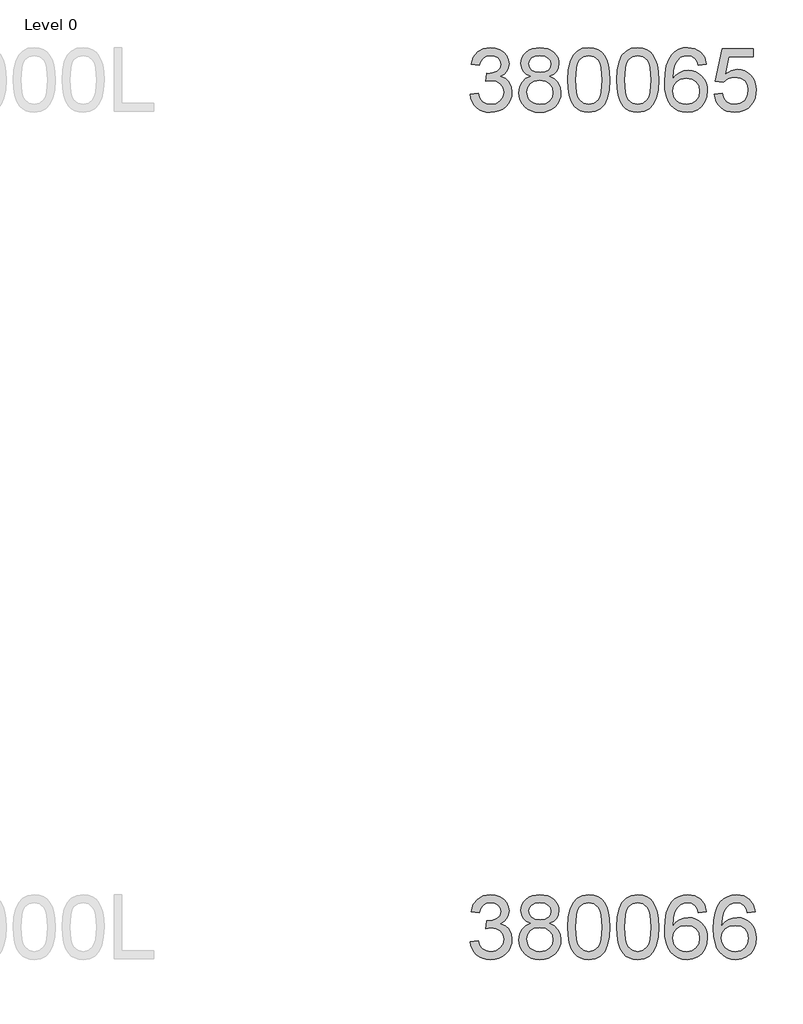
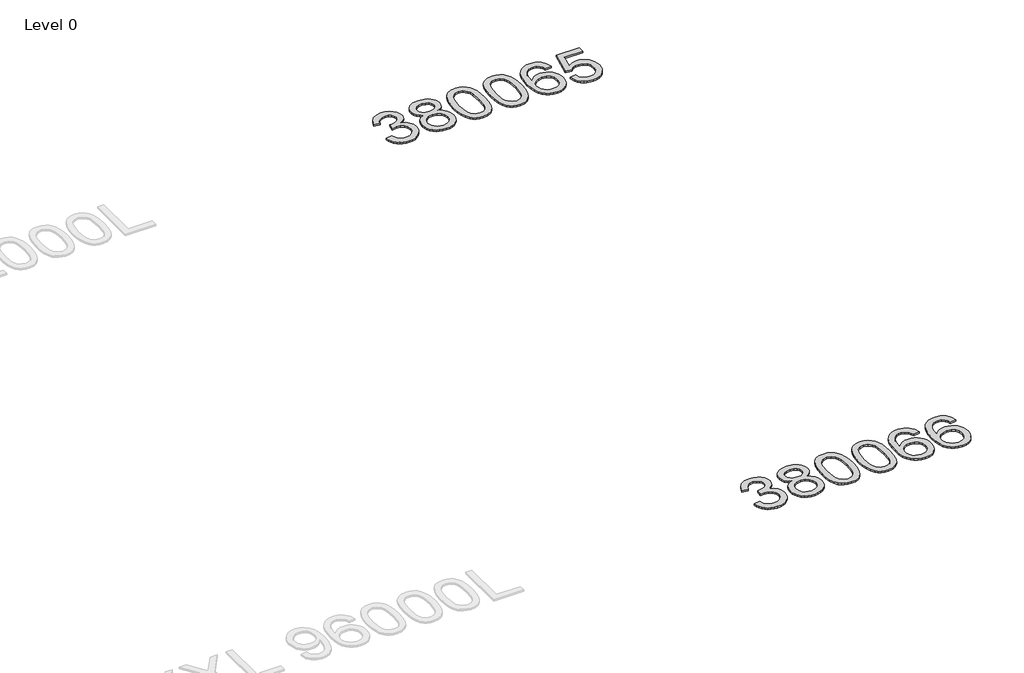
# One storey, part 28 of 37: 2 proxies.
"""IFC4 building model written with IfcOpenShell, lengths in millimetres."""

from ifc_helpers import new_model, si_unit, origin, origin_with_axes, place, context, project, spatial, polyline, outline, extrude, element, save

model = new_model("IFC4")

# Units and contexts
model_context = context("Model", 3, world=origin())
ifc_project = project(units=[si_unit("LENGTHUNIT", "METRE", prefix="MILLI")], contexts=[model_context])

# Site, building, storey
site = spatial("IfcSite", under=ifc_project)
building = spatial("IfcBuilding", under=site)
storey = spatial("IfcBuildingStorey", under=building, Name="Level 0", Elevation=0.0)

# Proxies
placement = place(None, origin())
element("IfcBuildingElementProxy", 1, Name="300mm Arial", ObjectType="300mm Arial", at=placement, inside=storey, context=model_context, shape_type="SweptSolid", body=[
    extrude(outline(polyline([(27688.7153576, -17620.925676), (27726.3864739, -17616.2167865), (27734.8201687, -17639.8899929), (27747.1718066, -17655.8744656), (27764.0483932, -17664.979545), (27786.0569335, -17668.0145714), (27811.8822496, -17663.8391108), (27831.8214537, -17651.3127288), (27844.5685649, -17632.6243235), (27848.8176019, -17609.9627926), (27844.6053531, -17588.4508929), (27831.9686065, -17571.0040893), (27812.8387428, -17559.4433976), (27789.1471423, -17555.5898337), (27762.733215, -17559.710112), (27766.9270698, -17522.0389957), (27772.9603345, -17522.4804541), (27795.5298949, -17519.7765215), (27815.7082223, -17511.6647235), (27829.9452556, -17497.942725), (27834.6909333, -17478.4081911), (27831.2512366, -17462.1386099), (27820.9321467, -17448.9408433), (27805.1867973, -17440.1944488), (27785.4683223, -17437.278984), (27765.7130592, -17440.22204), (27749.5630396, -17449.0512079), (27737.7724217, -17463.7664877), (27731.0953635, -17484.3678794), (27693.4242472, -17479.6589899), (27704.5158893, -17445.8322404), (27724.2527583, -17420.5771415), (27751.2552968, -17404.8501862), (27784.1439472, -17399.6078677), (27807.8263506, -17402.1922387), (27829.5773736, -17409.9453518), (27847.916291, -17422.1774281), (27861.362378, -17438.198689), (27869.6121317, -17456.6571681), (27872.3620496, -17476.2008991), (27869.7500874, -17494.4110579), (27861.9142009, -17510.9289595), (27848.9647547, -17525.0004458), (27831.0121133, -17535.8713587), (27854.5933492, -17545.3995024), (27872.067744, -17561.6230984), (27882.8834747, -17583.6592299), (27886.4887182, -17610.6249802), (27884.6860964, -17629.7364498), (27879.2782311, -17647.3396033), (27870.2651222, -17663.4344406), (27857.6467698, -17678.0209617), (27842.2739009, -17690.1242793), (27824.9972427, -17698.7695062), (27805.8167952, -17703.9566423), (27784.7325584, -17705.6856877), (27765.676271, -17704.2095612), (27748.3122408, -17699.7811817), (27732.6404678, -17692.4005492), (27718.660952, -17682.0676636), (27706.9393119, -17669.3895304), (27698.0411662, -17654.9731547), (27691.9665147, -17638.8185366), (27688.7153576, -17620.925676)])), origin_with_axes(), (0.0, 0.0, 1.0), 10.0),
    extrude(outline(polyline([(27974.3389387, -17534.988442), (27954.1698083, -17525.0556281), (27940.0155485, -17511.5911471), (27931.6554302, -17494.8709104), (27928.8687241, -17475.1708295), (27930.3862373, -17459.8071577), (27934.938777, -17445.7218758), (27942.5263431, -17432.9149839), (27953.1489357, -17421.3864818), (27966.2961185, -17411.8583382), (27981.4574553, -17405.0525213), (28017.8225905, -17399.6078677), (28054.4084549, -17405.18128), (28069.7353385, -17412.1480452), (28083.0848564, -17421.9015166), (28093.9005871, -17433.6553464), (28101.626109, -17446.6231867), (28106.2614221, -17460.8050376), (28107.8065265, -17476.2008991), (28105.0566086, -17495.2663835), (28096.8068549, -17511.7015117), (28082.9652948, -17525.0832192), (28063.4399579, -17534.988442), (28086.6257206, -17546.9354097), (28103.5023072, -17564.5293662), (28113.793806, -17586.9241826), (28117.2243056, -17613.2737305), (28115.5228514, -17632.0633034), (28110.4184887, -17649.2893779), (28101.9112175, -17664.9519538), (28090.001038, -17679.0510313), (28075.3133493, -17690.7036935), (28058.473551, -17699.0270236), (28039.481643, -17704.0210217), (28018.3376253, -17705.6856877), (27997.1936076, -17704.0141239), (27978.2016996, -17698.9994325), (27961.3619013, -17690.6416134), (27946.6742126, -17678.9406667), (27934.764033, -17664.7427209), (27926.2567619, -17648.8939047), (27921.1523992, -17631.3942181), (27919.450945, -17612.2436609), (27923.0194003, -17584.8732405), (27933.7247664, -17562.3588624), (27951.0152202, -17545.4730788), (27974.3389387, -17534.988442)]), holes=[polyline([(27966.5398404, -17476.2744755), (27969.8783695, -17492.7188007), (27979.8939568, -17505.8521879), (27996.2922967, -17514.4606266), (28018.7790837, -17517.3301062), (28040.7416388, -17514.4790207), (28056.8916584, -17505.9257643), (28066.8244723, -17493.2338355), (28070.1354102, -17477.9667327), (28066.7141077, -17462.1202158), (28056.4502, -17449.0144197), (28040.0794512, -17440.2128429), (28018.3376253, -17437.278984), (27996.4578436, -17440.1484636), (27980.114686, -17448.7569023), (27969.9335518, -17461.3752547), (27966.5398404, -17476.2744755)]), polyline([(27957.1220613, -17610.9192858), (27963.4128434, -17639.2829876), (27972.1224496, -17651.4506846), (27985.6697041, -17660.5097787), (28001.8933001, -17666.1383732), (28018.6319309, -17668.0145714), (28044.273306, -17664.069037), (28063.5135343, -17652.2324338), (28075.5432755, -17634.3073836), (28079.5531893, -17612.0965081), (28075.4145168, -17589.5085536), (28062.9984995, -17571.1880303), (28043.3168128, -17559.0479244), (28017.3811321, -17555.0012225), (27992.098442, -17558.9927421), (27973.0513517, -17570.9673011), (27961.1043839, -17588.9383365), (27957.1220613, -17610.9192858)])]), origin_with_axes(), (0.0, 0.0, 1.0), 10.0),
    extrude(outline(polyline([(28150.1865324, -17552.7203541), (28152.9548444, -17504.4818275), (28161.2597804, -17466.0105679), (28175.018567, -17436.717964), (28194.1484308, -17416.0154047), (28218.7873274, -17403.709752), (28249.0732127, -17399.6078677), (28272.2865666, -17402.0358889), (28293.0718993, -17409.3199524), (28310.4543236, -17421.1749497), (28323.4589521, -17437.3157722), (28333.2814014, -17457.6044643), (28341.1172879, -17481.9030701), (28346.2492417, -17512.7591724), (28347.959893, -17552.7203541), (28345.2191721, -17600.6829692), (28336.9970095, -17639.0622584), (28323.3209963, -17668.3824534), (28304.2187237, -17689.1677861), (28279.5246448, -17701.5562123), (28249.0732127, -17705.6856877), (28228.3246681, -17703.892263), (28209.9305684, -17698.5119888), (28193.8909134, -17689.5448652), (28180.2057032, -17676.9908921), (28167.0723159, -17654.2971715), (28157.6913251, -17626.0208417), (28152.0627305, -17592.1619025), (28150.1865324, -17552.7203541)]), holes=[polyline([(28187.8576487, -17552.6467777), (28192.2722326, -17611.9033701), (28197.7904625, -17632.1713688), (28205.5159844, -17646.1991691), (28225.2344594, -17662.5607208), (28249.0732127, -17668.0145714), (28272.911966, -17662.5423267), (28292.6304409, -17646.1255927), (28300.3559628, -17632.0747997), (28305.8741927, -17611.8113996), (28310.2887767, -17552.6467777), (28306.0213455, -17494.7237576), (28300.6870566, -17474.5224375), (28293.2190521, -17460.1612441), (28273.5373653, -17442.9995491), (28248.6317543, -17437.278984), (28225.0505184, -17442.3189674), (28206.1045956, -17457.4389174), (28198.1215563, -17473.0739022), (28192.4193854, -17494.1535405), (28187.8576487, -17552.6467777)])]), origin_with_axes(), (0.0, 0.0, 1.0), 10.0),
    extrude(outline(polyline([(28380.9221197, -17552.7203541), (28383.6904318, -17504.4818275), (28391.9953678, -17466.0105679), (28405.7541544, -17436.717964), (28424.8840182, -17416.0154047), (28449.5229148, -17403.709752), (28479.8088, -17399.6078677), (28503.0221539, -17402.0358889), (28523.8074867, -17409.3199524), (28541.1899109, -17421.1749497), (28554.1945395, -17437.3157722), (28564.0169887, -17457.6044643), (28571.8528752, -17481.9030701), (28576.9848291, -17512.7591724), (28578.6954803, -17552.7203541), (28575.9547595, -17600.6829692), (28567.7325969, -17639.0622584), (28554.0565837, -17668.3824534), (28534.9543111, -17689.1677861), (28510.2602322, -17701.5562123), (28479.8088, -17705.6856877), (28459.0602555, -17703.892263), (28440.6661558, -17698.5119888), (28424.6265008, -17689.5448652), (28410.9412905, -17676.9908921), (28397.8079033, -17654.2971715), (28388.4269124, -17626.0208417), (28382.7983179, -17592.1619025), (28380.9221197, -17552.7203541)]), holes=[polyline([(28418.593236, -17552.6467777), (28423.00782, -17611.9033701), (28428.5260499, -17632.1713688), (28436.2515718, -17646.1991691), (28455.9700468, -17662.5607208), (28479.8088, -17668.0145714), (28503.6475533, -17662.5423267), (28523.3660283, -17646.1255927), (28531.0915502, -17632.0747997), (28536.6097801, -17611.8113996), (28541.024364, -17552.6467777), (28536.7569329, -17494.7237576), (28531.422644, -17474.5224375), (28523.9546395, -17460.1612441), (28504.2729527, -17442.9995491), (28479.3673416, -17437.278984), (28455.7861058, -17442.3189674), (28436.840183, -17457.4389174), (28428.8571437, -17473.0739022), (28423.1549728, -17494.1535405), (28418.593236, -17552.6467777)])]), origin_with_axes(), (0.0, 0.0, 1.0), 10.0),
    extrude(outline(polyline([(28804.7221782, -17479.6589899), (28767.0510619, -17484.3678794), (28760.981009, -17465.6978682), (28752.7772405, -17452.950757), (28735.6891218, -17441.1969273), (28715.0325478, -17437.278984), (28697.5213648, -17439.5598524), (28681.0402514, -17446.4024575), (28666.8859916, -17460.8142347), (28655.3252999, -17480.6522713), (28647.5170046, -17508.7124704), (28644.6199339, -17547.7907354), (28659.7306868, -17530.1599908), (28677.839678, -17517.7347764), (28697.935232, -17510.3679394), (28719.0056733, -17507.9123271), (28737.1054675, -17509.5907887), (28753.80731, -17514.6261735), (28769.111201, -17523.0184815), (28783.0171405, -17534.7677128), (28794.5732336, -17549.1748914), (28802.8275859, -17565.5410417), (28807.7801973, -17583.8661635), (28809.4310677, -17604.150257), (28806.3224649, -17631.1252043), (28796.9966563, -17656.131983), (28782.2261942, -17677.34038), (28762.7836307, -17692.9201825), (28739.5518827, -17702.4943114), (28713.413867, -17705.6856877), (28690.9569704, -17703.5703662), (28670.6751762, -17697.2244018), (28652.5684842, -17686.6477945), (28636.6368946, -17671.8405442), (28623.6483609, -17652.1772515), (28614.3708368, -17627.0325171), (28608.8043224, -17596.406341), (28606.9488176, -17560.2987232), (28609.0089567, -17519.8179082), (28615.1893743, -17485.2691903), (28625.4900701, -17456.6525696), (28639.9110443, -17433.9680461), (28655.5414306, -17418.9354681), (28673.6642174, -17408.1979123), (28694.2794047, -17401.7553789), (28717.3869925, -17399.6078677), (28750.4411898, -17404.9237626), (28776.9102993, -17420.8714471), (28795.4515519, -17446.2001224), (28804.7221782, -17479.6589899)]), holes=[polyline([(28644.6199339, -17603.5616459), (28646.7996347, -17620.2542914), (28653.3387372, -17636.1927788), (28663.4922802, -17649.8963831), (28676.5153029, -17659.8843793), (28692.2330611, -17665.9820234), (28710.470811, -17668.0145714), (28735.3304368, -17663.8023226), (28754.8741678, -17651.165576), (28767.5385055, -17631.2999483), (28771.7599514, -17605.4010558), (28767.5936878, -17580.54143), (28755.094897, -17561.5863102), (28735.2200722, -17549.5841601), (28708.9257066, -17545.5834434), (28684.102869, -17549.5841601), (28663.3451274, -17561.5863102), (28649.3012323, -17580.0815775), (28644.6199339, -17603.5616459)])]), origin_with_axes(), (0.0, 0.0, 1.0), 10.0),
    extrude(outline(polyline([(28842.3932945, -17620.925676), (28880.0644108, -17616.2167865), (28886.9805923, -17638.8323321), (28899.0471217, -17655.028337), (28916.2088168, -17664.7680128), (28938.4104952, -17668.0145714), (28965.4130337, -17663.4988199), (28985.6465434, -17649.9515654), (28998.2832899, -17628.9363065), (29002.4955388, -17602.0165415), (28998.5500044, -17576.669472), (28986.7134012, -17557.2820909), (28966.8937587, -17544.9764381), (28938.9991064, -17540.8745539), (28920.7245683, -17542.5116288), (28905.9265151, -17547.4228534), (28884.7733003, -17564.4190016), (28847.102184, -17559.710112), (28880.0644108, -17404.3167573), (29026.0399865, -17404.3167573), (29026.0399865, -17441.9878736), (28910.52504, -17441.9878736), (28894.4118086, -17524.9820517), (28921.3223766, -17508.6480911), (28949.5205315, -17503.2034376), (28967.8663467, -17504.8910962), (28984.7176414, -17509.9540722), (29000.0744154, -17518.3923654), (29013.9366688, -17530.205976), (29025.4122878, -17544.6729355), (29033.6091585, -17561.0712754), (29038.527281, -17579.4009958), (29040.1666551, -17599.6620967), (29034.2621491, -17637.333213), (29026.8815165, -17654.1270261), (29016.548631, -17669.5596758), (29000.8952521, -17685.364806), (28982.629911, -17696.6541847), (28961.7526078, -17703.427812), (28938.2633424, -17705.6856877), (28901.2636108, -17699.8823492), (28885.58494, -17692.6281762), (28871.7870659, -17682.4723338), (28860.3068484, -17669.92066), (28851.5811473, -17655.4789924), (28842.3932945, -17620.925676)])), origin_with_axes(), (0.0, 0.0, 1.0), 10.0),
])
element("IfcBuildingElementProxy", 2, Name="300mm Arial", ObjectType="300mm Arial", at=placement, inside=storey, context=model_context, shape_type="SweptSolid", body=[
    extrude(outline(polyline([(27688.7153576, -21620.925676), (27726.3864739, -21616.2167865), (27734.8201687, -21639.8899929), (27747.1718066, -21655.8744656), (27764.0483932, -21664.979545), (27786.0569335, -21668.0145714), (27811.8822496, -21663.8391108), (27831.8214537, -21651.3127288), (27844.5685649, -21632.6243235), (27848.8176019, -21609.9627926), (27844.6053531, -21588.4508929), (27831.9686065, -21571.0040893), (27812.8387428, -21559.4433976), (27789.1471423, -21555.5898337), (27762.733215, -21559.710112), (27766.9270698, -21522.0389957), (27772.9603345, -21522.4804541), (27795.5298949, -21519.7765215), (27815.7082223, -21511.6647235), (27829.9452556, -21497.942725), (27834.6909333, -21478.4081911), (27831.2512366, -21462.1386099), (27820.9321467, -21448.9408433), (27805.1867973, -21440.1944488), (27785.4683223, -21437.278984), (27765.7130592, -21440.22204), (27749.5630396, -21449.0512079), (27737.7724217, -21463.7664877), (27731.0953635, -21484.3678794), (27693.4242472, -21479.6589899), (27704.5158893, -21445.8322404), (27724.2527583, -21420.5771415), (27751.2552968, -21404.8501862), (27784.1439472, -21399.6078677), (27807.8263506, -21402.1922387), (27829.5773736, -21409.9453518), (27847.916291, -21422.1774281), (27861.362378, -21438.198689), (27869.6121317, -21456.6571681), (27872.3620496, -21476.2008991), (27869.7500874, -21494.4110579), (27861.9142009, -21510.9289595), (27848.9647547, -21525.0004458), (27831.0121133, -21535.8713587), (27854.5933492, -21545.3995024), (27872.067744, -21561.6230984), (27882.8834747, -21583.6592299), (27886.4887182, -21610.6249802), (27884.6860964, -21629.7364498), (27879.2782311, -21647.3396033), (27870.2651222, -21663.4344406), (27857.6467698, -21678.0209617), (27842.2739009, -21690.1242793), (27824.9972427, -21698.7695062), (27805.8167952, -21703.9566423), (27784.7325584, -21705.6856877), (27765.676271, -21704.2095612), (27748.3122408, -21699.7811817), (27732.6404678, -21692.4005492), (27718.660952, -21682.0676636), (27706.9393119, -21669.3895304), (27698.0411662, -21654.9731547), (27691.9665147, -21638.8185366), (27688.7153576, -21620.925676)])), origin_with_axes(), (0.0, 0.0, 1.0), 10.0),
    extrude(outline(polyline([(27974.3389387, -21534.988442), (27954.1698083, -21525.0556281), (27940.0155485, -21511.5911471), (27931.6554302, -21494.8709104), (27928.8687241, -21475.1708295), (27930.3862373, -21459.8071577), (27934.938777, -21445.7218758), (27942.5263431, -21432.9149839), (27953.1489357, -21421.3864818), (27966.2961185, -21411.8583382), (27981.4574553, -21405.0525213), (28017.8225905, -21399.6078677), (28054.4084549, -21405.18128), (28069.7353385, -21412.1480452), (28083.0848564, -21421.9015166), (28093.9005871, -21433.6553464), (28101.626109, -21446.6231867), (28106.2614221, -21460.8050376), (28107.8065265, -21476.2008991), (28105.0566086, -21495.2663835), (28096.8068549, -21511.7015117), (28082.9652948, -21525.0832192), (28063.4399579, -21534.988442), (28086.6257206, -21546.9354097), (28103.5023072, -21564.5293662), (28113.793806, -21586.9241826), (28117.2243056, -21613.2737305), (28115.5228514, -21632.0633034), (28110.4184887, -21649.2893779), (28101.9112175, -21664.9519538), (28090.001038, -21679.0510313), (28075.3133493, -21690.7036935), (28058.473551, -21699.0270236), (28039.481643, -21704.0210217), (28018.3376253, -21705.6856877), (27997.1936076, -21704.0141239), (27978.2016996, -21698.9994325), (27961.3619013, -21690.6416134), (27946.6742126, -21678.9406667), (27934.764033, -21664.7427209), (27926.2567619, -21648.8939047), (27921.1523992, -21631.3942181), (27919.450945, -21612.2436609), (27923.0194003, -21584.8732405), (27933.7247664, -21562.3588624), (27951.0152202, -21545.4730788), (27974.3389387, -21534.988442)]), holes=[polyline([(27966.5398404, -21476.2744755), (27969.8783695, -21492.7188007), (27979.8939568, -21505.8521879), (27996.2922967, -21514.4606266), (28018.7790837, -21517.3301062), (28040.7416388, -21514.4790207), (28056.8916584, -21505.9257643), (28066.8244723, -21493.2338355), (28070.1354102, -21477.9667327), (28066.7141077, -21462.1202158), (28056.4502, -21449.0144197), (28040.0794512, -21440.2128429), (28018.3376253, -21437.278984), (27996.4578436, -21440.1484636), (27980.114686, -21448.7569023), (27969.9335518, -21461.3752547), (27966.5398404, -21476.2744755)]), polyline([(27957.1220613, -21610.9192858), (27963.4128434, -21639.2829876), (27972.1224496, -21651.4506846), (27985.6697041, -21660.5097787), (28001.8933001, -21666.1383732), (28018.6319309, -21668.0145714), (28044.273306, -21664.069037), (28063.5135343, -21652.2324338), (28075.5432755, -21634.3073836), (28079.5531893, -21612.0965081), (28075.4145168, -21589.5085536), (28062.9984995, -21571.1880303), (28043.3168128, -21559.0479244), (28017.3811321, -21555.0012225), (27992.098442, -21558.9927421), (27973.0513517, -21570.9673011), (27961.1043839, -21588.9383365), (27957.1220613, -21610.9192858)])]), origin_with_axes(), (0.0, 0.0, 1.0), 10.0),
    extrude(outline(polyline([(28150.1865324, -21552.7203541), (28152.9548444, -21504.4818275), (28161.2597804, -21466.0105679), (28175.018567, -21436.717964), (28194.1484308, -21416.0154047), (28218.7873274, -21403.709752), (28249.0732127, -21399.6078677), (28272.2865666, -21402.0358889), (28293.0718993, -21409.3199524), (28310.4543236, -21421.1749497), (28323.4589521, -21437.3157722), (28333.2814014, -21457.6044643), (28341.1172879, -21481.9030701), (28346.2492417, -21512.7591724), (28347.959893, -21552.7203541), (28345.2191721, -21600.6829692), (28336.9970095, -21639.0622584), (28323.3209963, -21668.3824534), (28304.2187237, -21689.1677861), (28279.5246448, -21701.5562123), (28249.0732127, -21705.6856877), (28228.3246681, -21703.892263), (28209.9305684, -21698.5119888), (28193.8909134, -21689.5448652), (28180.2057032, -21676.9908921), (28167.0723159, -21654.2971715), (28157.6913251, -21626.0208417), (28152.0627305, -21592.1619025), (28150.1865324, -21552.7203541)]), holes=[polyline([(28187.8576487, -21552.6467777), (28192.2722326, -21611.9033701), (28197.7904625, -21632.1713688), (28205.5159844, -21646.1991691), (28225.2344594, -21662.5607208), (28249.0732127, -21668.0145714), (28272.911966, -21662.5423267), (28292.6304409, -21646.1255927), (28300.3559628, -21632.0747997), (28305.8741927, -21611.8113996), (28310.2887767, -21552.6467777), (28306.0213455, -21494.7237576), (28300.6870566, -21474.5224375), (28293.2190521, -21460.1612441), (28273.5373653, -21442.9995491), (28248.6317543, -21437.278984), (28225.0505184, -21442.3189674), (28206.1045956, -21457.4389174), (28198.1215563, -21473.0739022), (28192.4193854, -21494.1535405), (28187.8576487, -21552.6467777)])]), origin_with_axes(), (0.0, 0.0, 1.0), 10.0),
    extrude(outline(polyline([(28380.9221197, -21552.7203541), (28383.6904318, -21504.4818275), (28391.9953678, -21466.0105679), (28405.7541544, -21436.717964), (28424.8840182, -21416.0154047), (28449.5229148, -21403.709752), (28479.8088, -21399.6078677), (28503.0221539, -21402.0358889), (28523.8074867, -21409.3199524), (28541.1899109, -21421.1749497), (28554.1945395, -21437.3157722), (28564.0169887, -21457.6044643), (28571.8528752, -21481.9030701), (28576.9848291, -21512.7591724), (28578.6954803, -21552.7203541), (28575.9547595, -21600.6829692), (28567.7325969, -21639.0622584), (28554.0565837, -21668.3824534), (28534.9543111, -21689.1677861), (28510.2602322, -21701.5562123), (28479.8088, -21705.6856877), (28459.0602555, -21703.892263), (28440.6661558, -21698.5119888), (28424.6265008, -21689.5448652), (28410.9412905, -21676.9908921), (28397.8079033, -21654.2971715), (28388.4269124, -21626.0208417), (28382.7983179, -21592.1619025), (28380.9221197, -21552.7203541)]), holes=[polyline([(28418.593236, -21552.6467777), (28423.00782, -21611.9033701), (28428.5260499, -21632.1713688), (28436.2515718, -21646.1991691), (28455.9700468, -21662.5607208), (28479.8088, -21668.0145714), (28503.6475533, -21662.5423267), (28523.3660283, -21646.1255927), (28531.0915502, -21632.0747997), (28536.6097801, -21611.8113996), (28541.024364, -21552.6467777), (28536.7569329, -21494.7237576), (28531.422644, -21474.5224375), (28523.9546395, -21460.1612441), (28504.2729527, -21442.9995491), (28479.3673416, -21437.278984), (28455.7861058, -21442.3189674), (28436.840183, -21457.4389174), (28428.8571437, -21473.0739022), (28423.1549728, -21494.1535405), (28418.593236, -21552.6467777)])]), origin_with_axes(), (0.0, 0.0, 1.0), 10.0),
    extrude(outline(polyline([(28804.7221782, -21479.6589899), (28767.0510619, -21484.3678794), (28760.981009, -21465.6978682), (28752.7772405, -21452.950757), (28735.6891218, -21441.1969273), (28715.0325478, -21437.278984), (28697.5213648, -21439.5598524), (28681.0402514, -21446.4024575), (28666.8859916, -21460.8142347), (28655.3252999, -21480.6522713), (28647.5170046, -21508.7124704), (28644.6199339, -21547.7907354), (28659.7306868, -21530.1599908), (28677.839678, -21517.7347764), (28697.935232, -21510.3679394), (28719.0056733, -21507.9123271), (28737.1054675, -21509.5907887), (28753.80731, -21514.6261735), (28769.111201, -21523.0184815), (28783.0171405, -21534.7677128), (28794.5732336, -21549.1748914), (28802.8275859, -21565.5410417), (28807.7801973, -21583.8661635), (28809.4310677, -21604.150257), (28806.3224649, -21631.1252043), (28796.9966563, -21656.131983), (28782.2261942, -21677.34038), (28762.7836307, -21692.9201825), (28739.5518827, -21702.4943114), (28713.413867, -21705.6856877), (28690.9569704, -21703.5703662), (28670.6751762, -21697.2244018), (28652.5684842, -21686.6477945), (28636.6368946, -21671.8405442), (28623.6483609, -21652.1772515), (28614.3708368, -21627.0325171), (28608.8043224, -21596.406341), (28606.9488176, -21560.2987232), (28609.0089567, -21519.8179082), (28615.1893743, -21485.2691903), (28625.4900701, -21456.6525696), (28639.9110443, -21433.9680461), (28655.5414306, -21418.9354681), (28673.6642174, -21408.1979123), (28694.2794047, -21401.7553789), (28717.3869925, -21399.6078677), (28750.4411898, -21404.9237626), (28776.9102993, -21420.8714471), (28795.4515519, -21446.2001224), (28804.7221782, -21479.6589899)]), holes=[polyline([(28644.6199339, -21603.5616459), (28646.7996347, -21620.2542914), (28653.3387372, -21636.1927788), (28663.4922802, -21649.8963831), (28676.5153029, -21659.8843793), (28692.2330611, -21665.9820234), (28710.470811, -21668.0145714), (28735.3304368, -21663.8023226), (28754.8741678, -21651.165576), (28767.5385055, -21631.2999483), (28771.7599514, -21605.4010558), (28767.5936878, -21580.54143), (28755.094897, -21561.5863102), (28735.2200722, -21549.5841601), (28708.9257066, -21545.5834434), (28684.102869, -21549.5841601), (28663.3451274, -21561.5863102), (28649.3012323, -21580.0815775), (28644.6199339, -21603.5616459)])]), origin_with_axes(), (0.0, 0.0, 1.0), 10.0),
    extrude(outline(polyline([(29035.4577656, -21479.6589899), (28997.7866493, -21484.3678794), (28991.7165963, -21465.6978682), (28983.5128278, -21452.950757), (28966.4247092, -21441.1969273), (28945.7681351, -21437.278984), (28928.2569522, -21439.5598524), (28911.7758388, -21446.4024575), (28897.621579, -21460.8142347), (28886.0608873, -21480.6522713), (28878.252592, -21508.7124704), (28875.3555213, -21547.7907354), (28890.4662742, -21530.1599908), (28908.5752654, -21517.7347764), (28928.6708194, -21510.3679394), (28949.7412607, -21507.9123271), (28967.8410548, -21509.5907887), (28984.5428974, -21514.6261735), (28999.8467884, -21523.0184815), (29013.7527278, -21534.7677128), (29025.308821, -21549.1748914), (29033.5631733, -21565.5410417), (29038.5157846, -21583.8661635), (29040.1666551, -21604.150257), (29037.0580522, -21631.1252043), (29027.7322437, -21656.131983), (29012.9617816, -21677.34038), (28993.5192181, -21692.9201825), (28970.2874701, -21702.4943114), (28944.1494544, -21705.6856877), (28921.6925578, -21703.5703662), (28901.4107636, -21697.2244018), (28883.3040716, -21686.6477945), (28867.372482, -21671.8405442), (28854.3839483, -21652.1772515), (28845.1064242, -21627.0325171), (28839.5399098, -21596.406341), (28837.6844049, -21560.2987232), (28839.7445441, -21519.8179082), (28845.9249616, -21485.2691903), (28856.2256575, -21456.6525696), (28870.6466317, -21433.9680461), (28886.277018, -21418.9354681), (28904.3998048, -21408.1979123), (28925.0149921, -21401.7553789), (28948.1225799, -21399.6078677), (28981.1767772, -21404.9237626), (29007.6458867, -21420.8714471), (29026.1871393, -21446.2001224), (29035.4577656, -21479.6589899)]), holes=[polyline([(28875.3555213, -21603.5616459), (28877.5352221, -21620.2542914), (28884.0743245, -21636.1927788), (28894.2278676, -21649.8963831), (28907.2508902, -21659.8843793), (28922.9686485, -21665.9820234), (28941.2063984, -21668.0145714), (28966.0660242, -21663.8023226), (28985.6097552, -21651.165576), (28998.2740929, -21631.2999483), (29002.4955388, -21605.4010558), (28998.3292752, -21580.54143), (28985.8304844, -21561.5863102), (28965.9556596, -21549.5841601), (28939.661294, -21545.5834434), (28914.8384564, -21549.5841601), (28894.0807148, -21561.5863102), (28880.0368196, -21580.0815775), (28875.3555213, -21603.5616459)])]), origin_with_axes(), (0.0, 0.0, 1.0), 10.0),
])

save(model, "model.ifc")
